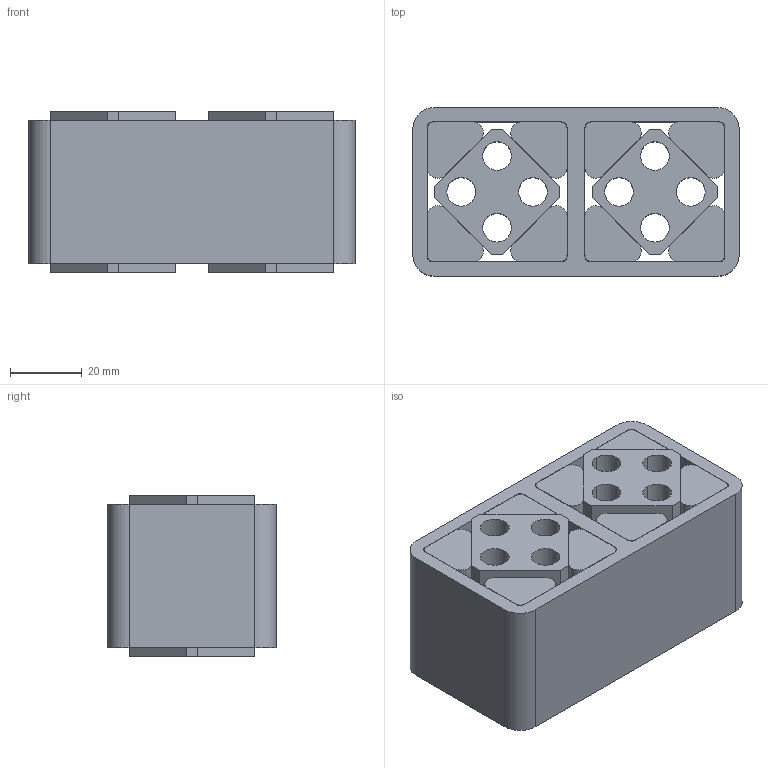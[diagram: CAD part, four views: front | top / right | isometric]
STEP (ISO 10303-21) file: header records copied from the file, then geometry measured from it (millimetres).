
FILE_DESCRIPTION((''),'2;1');
FILE_NAME('D:\ROSTA\Gummifederelemente\3D\DO-A27x40_01041007.stp','2005-02-09T11:08:29',('Administrator'),(''),'Autodesk Inventor 8','Autodesk Inventor 8','');
FILE_SCHEMA(('AUTOMOTIVE_DESIGN { 1 0 10303 214 1 1 1 1 }'));
Length unit declared in the file: millimetre
Products named in the file (4): Baugruppe1; 4.4.3760-001; 4.4.3760-002; 4.4.3760-003
Assembly tree (11 placements, depth 2):
  Baugruppe1
    4.4.3760-001
    4.4.3760-002  x2
    4.4.3760-003  x8
Bounding box: 91 x 47 x 45 mm (x, y, z)
Volume: 151179.5 mm3; surface area: 65224.3 mm2
Topology: 11 solids, 11 shells, 126 faces, 312 edges, 208 vertices
Faces by surface type: plane 74, cylinder 52
Entity records: 1819 total; most frequent: DIRECTION 318, CARTESIAN_POINT 297, ORIENTED_EDGE 276, EDGE_CURVE 138, AXIS2_PLACEMENT_3D 113, VERTEX_POINT 92, VECTOR 92, LINE 92
